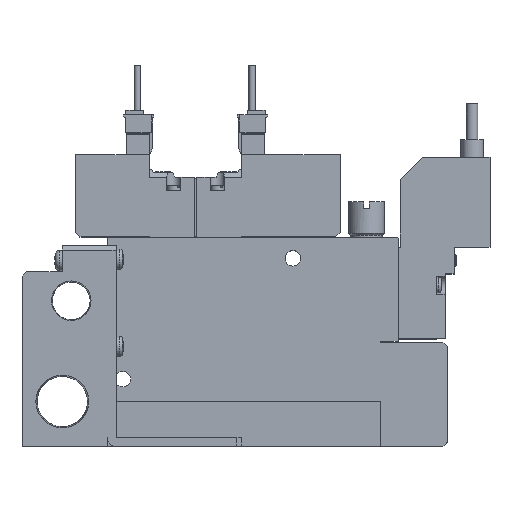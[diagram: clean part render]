
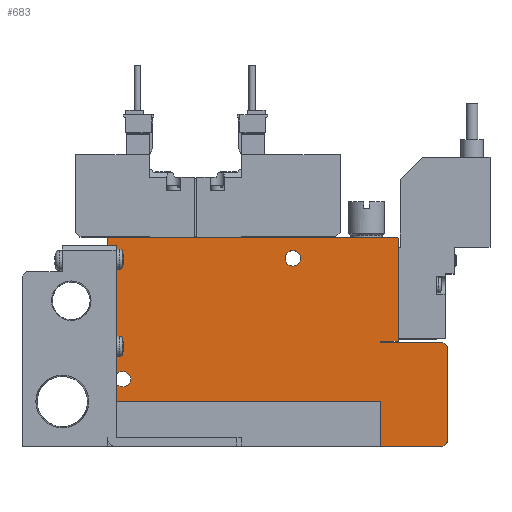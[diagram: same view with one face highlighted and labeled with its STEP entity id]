
A CAD part, top view. The second image highlights one B-rep face of the part: STEP entity #683.
In plain terms, the highlighted planar face has unit normal (0, 0, 1).
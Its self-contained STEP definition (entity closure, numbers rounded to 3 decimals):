
#683=ADVANCED_FACE('',(#1571,#1572,#1573),#1574,.F.);
#1571=FACE_OUTER_BOUND('',#2744,.T.);
#1572=FACE_BOUND('',#2745,.T.);
#1573=FACE_BOUND('',#2746,.T.);
#1574=PLANE('',#2747);
#2744=EDGE_LOOP('',(#5810,#5811,#5812,#5813,#5814,#5815,#5816,#5817,#5818,#5819,#5820,#5821,#5822,#5823));
#2745=EDGE_LOOP('',(#5824));
#2746=EDGE_LOOP('',(#5825));
#2747=AXIS2_PLACEMENT_3D('',#5826,#5827,#5828);
#5810=ORIENTED_EDGE('',*,*,#8068,.T.);
#5811=ORIENTED_EDGE('',*,*,#8069,.F.);
#5812=ORIENTED_EDGE('',*,*,#8070,.F.);
#5813=ORIENTED_EDGE('',*,*,#8031,.T.);
#5814=ORIENTED_EDGE('',*,*,#8049,.T.);
#5815=ORIENTED_EDGE('',*,*,#8034,.T.);
#5816=ORIENTED_EDGE('',*,*,#8041,.T.);
#5817=ORIENTED_EDGE('',*,*,#8071,.T.);
#5818=ORIENTED_EDGE('',*,*,#8072,.T.);
#5819=ORIENTED_EDGE('',*,*,#8073,.T.);
#5820=ORIENTED_EDGE('',*,*,#8074,.T.);
#5821=ORIENTED_EDGE('',*,*,#8075,.T.);
#5822=ORIENTED_EDGE('',*,*,#8076,.T.);
#5823=ORIENTED_EDGE('',*,*,#8077,.T.);
#5824=ORIENTED_EDGE('',*,*,#8078,.F.);
#5825=ORIENTED_EDGE('',*,*,#8079,.F.);
#5826=CARTESIAN_POINT('',(0.0,0.0,5.0));
#5827=DIRECTION('',(0.0,0.0,-1.0));
#5828=DIRECTION('',(0.0,-1.0,0.0));
#8031=EDGE_CURVE('',#9821,#9825,#9827,.T.);
#8034=EDGE_CURVE('',#9833,#9831,#9834,.T.);
#8041=EDGE_CURVE('',#9831,#9843,#9845,.T.);
#8049=EDGE_CURVE('',#9825,#9833,#9859,.T.);
#8068=EDGE_CURVE('',#9890,#9891,#9892,.T.);
#8069=EDGE_CURVE('',#9893,#9891,#9894,.T.);
#8070=EDGE_CURVE('',#9821,#9893,#9895,.T.);
#8071=EDGE_CURVE('',#9843,#9896,#9897,.T.);
#8072=EDGE_CURVE('',#9896,#9898,#9899,.T.);
#8073=EDGE_CURVE('',#9898,#9900,#9901,.T.);
#8074=EDGE_CURVE('',#9900,#9902,#9903,.T.);
#8075=EDGE_CURVE('',#9902,#9904,#9905,.T.);
#8076=EDGE_CURVE('',#9904,#9906,#9907,.T.);
#8077=EDGE_CURVE('',#9906,#9890,#9908,.T.);
#8078=EDGE_CURVE('',#9909,#9909,#9910,.T.);
#8079=EDGE_CURVE('',#9911,#9911,#9912,.T.);
#9821=VERTEX_POINT('',#12770);
#9825=VERTEX_POINT('',#12776);
#9827=LINE('',#12779,#12780);
#9831=VERTEX_POINT('',#12785);
#9833=VERTEX_POINT('',#12788);
#9834=LINE('',#12789,#12790);
#9843=VERTEX_POINT('',#12803);
#9845=LINE('',#12806,#12807);
#9859=LINE('',#12828,#12829);
#9890=VERTEX_POINT('',#12873);
#9891=VERTEX_POINT('',#12874);
#9892=LINE('',#12875,#12876);
#9893=VERTEX_POINT('',#12877);
#9894=LINE('',#12878,#12879);
#9895=LINE('',#12880,#12881);
#9896=VERTEX_POINT('',#12882);
#9897=LINE('',#12883,#12884);
#9898=VERTEX_POINT('',#12885);
#9899=LINE('',#12886,#12887);
#9900=VERTEX_POINT('',#12888);
#9901=LINE('',#12889,#12890);
#9902=VERTEX_POINT('',#12891);
#9903=LINE('',#12892,#12893);
#9904=VERTEX_POINT('',#12894);
#9905=LINE('',#12895,#12896);
#9906=VERTEX_POINT('',#12897);
#9907=LINE('',#12898,#12899);
#9908=LINE('',#12900,#12901);
#9909=VERTEX_POINT('',#12902);
#9910=CIRCLE('',#12903,1.75);
#9911=VERTEX_POINT('',#12904);
#9912=CIRCLE('',#12905,1.75);
#12770=CARTESIAN_POINT('',(61.1,0.0,5.0));
#12776=CARTESIAN_POINT('',(75.0,0.0,5.0));
#12779=CARTESIAN_POINT('',(0.0,0.0,5.0));
#12780=VECTOR('',#15394,1.0);
#12785=CARTESIAN_POINT('',(76.0,22.25,5.0));
#12788=CARTESIAN_POINT('',(76.0,1.0,5.0));
#12789=CARTESIAN_POINT('',(76.0,1.0,5.0));
#12790=VECTOR('',#15397,1.0);
#12803=CARTESIAN_POINT('',(75.0,23.25,5.0));
#12806=CARTESIAN_POINT('',(76.0,22.25,5.0));
#12807=VECTOR('',#15406,1.0);
#12828=CARTESIAN_POINT('',(75.0,0.0,5.0));
#12829=VECTOR('',#15414,1.0);
#12873=CARTESIAN_POINT('',(0.0,46.4,5.0));
#12874=CARTESIAN_POINT('',(0.0,10.1,5.0));
#12875=CARTESIAN_POINT('',(0.0,46.4,5.0));
#12876=VECTOR('',#15443,1.0);
#12877=CARTESIAN_POINT('',(61.1,10.1,5.0));
#12878=CARTESIAN_POINT('',(61.1,10.1,5.0));
#12879=VECTOR('',#15444,1.0);
#12880=CARTESIAN_POINT('',(61.1,0.0,5.0));
#12881=VECTOR('',#15445,1.0);
#12882=CARTESIAN_POINT('',(61.0,23.25,5.0));
#12883=CARTESIAN_POINT('',(75.0,23.25,5.0));
#12884=VECTOR('',#15446,1.0);
#12885=CARTESIAN_POINT('',(61.0,23.5,5.0));
#12886=CARTESIAN_POINT('',(61.0,23.25,5.0));
#12887=VECTOR('',#15447,1.0);
#12888=CARTESIAN_POINT('',(65.0,23.5,5.0));
#12889=CARTESIAN_POINT('',(61.0,23.5,5.0));
#12890=VECTOR('',#15448,1.0);
#12891=CARTESIAN_POINT('',(65.0,46.4,5.0));
#12892=CARTESIAN_POINT('',(65.0,23.5,5.0));
#12893=VECTOR('',#15449,1.0);
#12894=CARTESIAN_POINT('',(64.8,46.6,5.0));
#12895=CARTESIAN_POINT('',(65.0,46.4,5.0));
#12896=VECTOR('',#15450,1.0);
#12897=CARTESIAN_POINT('',(0.2,46.6,5.0));
#12898=CARTESIAN_POINT('',(64.8,46.6,5.0));
#12899=VECTOR('',#15451,1.0);
#12900=CARTESIAN_POINT('',(0.2,46.6,5.0));
#12901=VECTOR('',#15452,1.0);
#12902=CARTESIAN_POINT('',(5.25,15.0,5.0));
#12903=AXIS2_PLACEMENT_3D('',#15453,#15454,#15455);
#12904=CARTESIAN_POINT('',(43.25,42.0,5.0));
#12905=AXIS2_PLACEMENT_3D('',#15456,#15457,#15458);
#15394=DIRECTION('',(1.0,0.0,0.0));
#15397=DIRECTION('',(0.0,1.0,0.0));
#15406=DIRECTION('',(-0.707,0.707,0.0));
#15414=DIRECTION('',(0.707,0.707,0.0));
#15443=DIRECTION('',(0.0,-1.0,0.0));
#15444=DIRECTION('',(-1.0,0.0,0.0));
#15445=DIRECTION('',(0.0,1.0,0.0));
#15446=DIRECTION('',(-1.0,0.0,0.0));
#15447=DIRECTION('',(0.0,1.0,0.0));
#15448=DIRECTION('',(1.0,0.,0.0));
#15449=DIRECTION('',(0.0,1.0,0.0));
#15450=DIRECTION('',(-0.707,0.707,0.0));
#15451=DIRECTION('',(-1.0,0.0,0.0));
#15452=DIRECTION('',(-0.707,-0.707,0.0));
#15453=CARTESIAN_POINT('',(3.5,15.0,5.0));
#15454=DIRECTION('',(0.0,0.0,1.0));
#15455=DIRECTION('',(1.0,0.0,0.0));
#15456=CARTESIAN_POINT('',(41.5,42.0,5.0));
#15457=DIRECTION('',(0.0,0.0,1.0));
#15458=DIRECTION('',(1.0,0.0,0.0));
